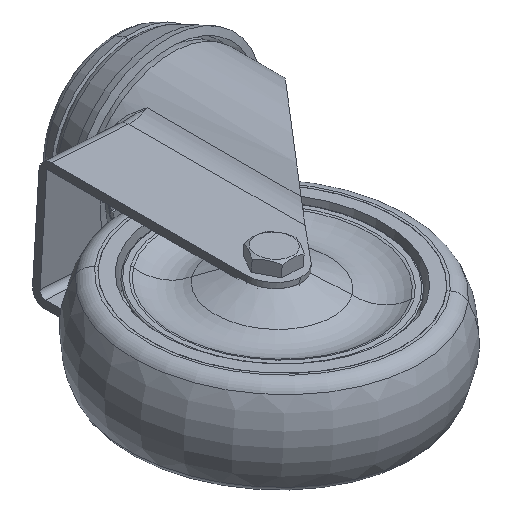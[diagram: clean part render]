
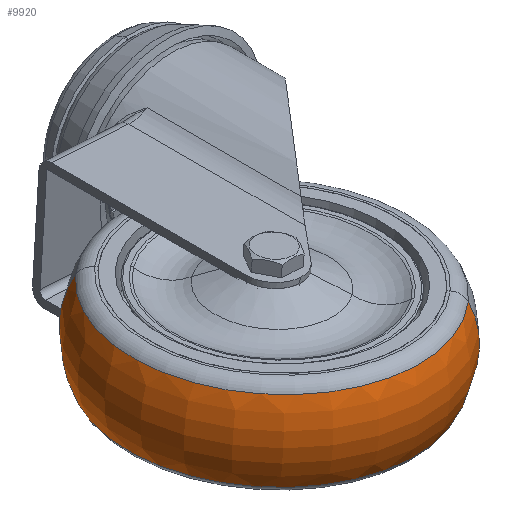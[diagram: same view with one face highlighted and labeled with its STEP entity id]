
A CAD part, isometric view. The second image highlights one B-rep face of the part: STEP entity #9920.
In plain terms, the highlighted toroidal (fillet/blend) face has major radius 22 mm and minor radius 28 mm.
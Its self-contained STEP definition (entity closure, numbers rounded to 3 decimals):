
#353 = EDGE_CURVE ( 'NONE', #391, #588, #2289, .T. ) ;
#374 = VERTEX_POINT ( 'NONE', #2316 ) ;
#391 = VERTEX_POINT ( 'NONE', #2340 ) ;
#464 = EDGE_CURVE ( 'NONE', #374, #478, #2548, .T. ) ;
#478 = VERTEX_POINT ( 'NONE', #2534 ) ;
#588 = VERTEX_POINT ( 'NONE', #2717 ) ;
#2278 = DIRECTION ( 'NONE',  ( -0.667, 0.745, 0. ) ) ;
#2281 = DIRECTION ( 'NONE',  ( 0.745, 0.666, -0.048 ) ) ;
#2287 = CARTESIAN_POINT ( 'NONE',  ( 95.297, -89.526, 166.737 ) ) ;
#2289 = CIRCLE ( 'NONE', #2301, 28. ) ;
#2301 = AXIS2_PLACEMENT_3D ( 'NONE', #2287, #2281, #2278 ) ;
#2316 = CARTESIAN_POINT ( 'NONE',  ( 50.456, -38.229, 182.743 ) ) ;
#2340 = CARTESIAN_POINT ( 'NONE',  ( 112.586, -107.995, 178.737 ) ) ;
#2534 = CARTESIAN_POINT ( 'NONE',  ( 48.772, -38.229, 156.622 ) ) ;
#2543 = DIRECTION ( 'NONE',  ( 0.667, -0.745, 0. ) ) ;
#2544 = DIRECTION ( 'NONE',  ( -0.745, -0.666, 0.048 ) ) ;
#2545 = CARTESIAN_POINT ( 'NONE',  ( 66.061, -56.697, 168.622 ) ) ;
#2546 = AXIS2_PLACEMENT_3D ( 'NONE', #2545, #2544, #2543 ) ;
#2548 = CIRCLE ( 'NONE', #2546, 28. ) ;
#2717 = CARTESIAN_POINT ( 'NONE',  ( 110.902, -107.995, 152.617 ) ) ;
#5756 = DIRECTION ( 'NONE',  ( -0.664, 0.746, 0.043 ) ) ;
#5757 = DIRECTION ( 'NONE',  ( -0.064, 0., -0.998 ) ) ;
#5758 = CARTESIAN_POINT ( 'NONE',  ( 81.521, -73.112, 180.74 ) ) ;
#5762 = CIRCLE ( 'NONE', #5791, 46.753 ) ;
#5791 = AXIS2_PLACEMENT_3D ( 'NONE', #5758, #5757, #5756 ) ;
#6019 = DIRECTION ( 'NONE',  ( -0.064, 0., -0.998 ) ) ;
#6020 = AXIS2_PLACEMENT_3D ( 'NONE', #6034, #6019, #6063 ) ;
#6021 = CIRCLE ( 'NONE', #6020, 46.753 ) ;
#6034 = CARTESIAN_POINT ( 'NONE',  ( 79.837, -73.112, 154.619 ) ) ;
#6063 = DIRECTION ( 'NONE',  ( -0.664, 0.746, 0.043 ) ) ;
#6166 = FACE_OUTER_BOUND ( 'NONE', #9929, .T. ) ;
#6171 = TOROIDAL_SURFACE ( 'NONE', #6222, 22., 28. ) ;
#6192 = CARTESIAN_POINT ( 'NONE',  ( 80.679, -73.112, 167.68 ) ) ;
#6195 = DIRECTION ( 'NONE',  ( -0.064, 0., -0.998 ) ) ;
#6217 = DIRECTION ( 'NONE',  ( -0.664, 0.746, 0.043 ) ) ;
#6222 = AXIS2_PLACEMENT_3D ( 'NONE', #6192, #6195, #6217 ) ;
#9813 = EDGE_CURVE ( 'NONE', #391, #374, #5762, .T. ) ;
#9824 = EDGE_CURVE ( 'NONE', #588, #478, #6021, .T. ) ;
#9865 = ORIENTED_EDGE ( 'NONE', *, *, #9824, .F. ) ;
#9877 = ORIENTED_EDGE ( 'NONE', *, *, #9813, .T. ) ;
#9906 = ORIENTED_EDGE ( 'NONE', *, *, #353, .F. ) ;
#9918 = ORIENTED_EDGE ( 'NONE', *, *, #464, .T. ) ;
#9920 = ADVANCED_FACE ( 'NONE', ( #6166 ), #6171, .T. ) ;
#9929 = EDGE_LOOP ( 'NONE', ( #9906, #9877, #9918, #9865 ) ) ;
